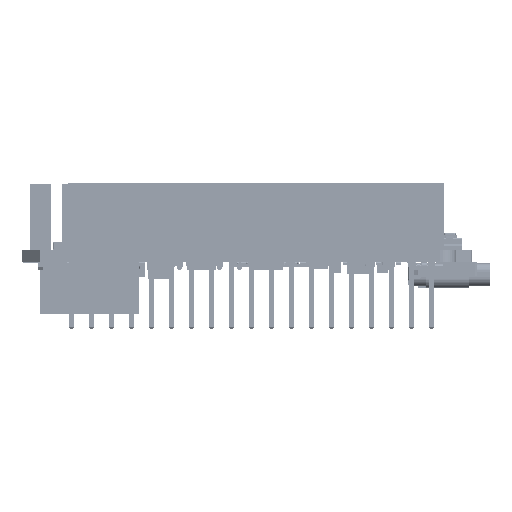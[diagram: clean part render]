
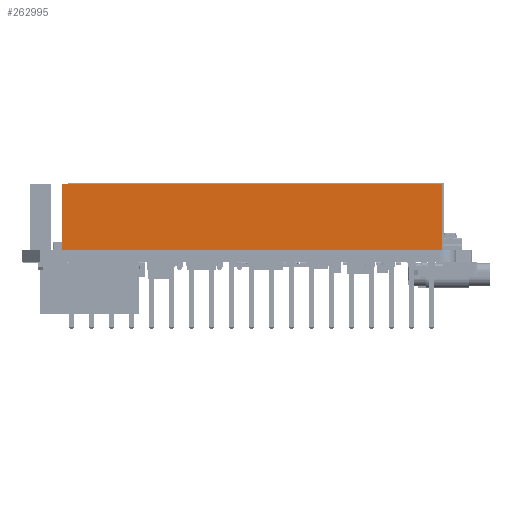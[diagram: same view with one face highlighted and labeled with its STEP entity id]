
A CAD part, left-side view. The second image highlights one B-rep face of the part: STEP entity #262995.
In plain terms, the highlighted planar face has unit normal (-1, 0, 0).
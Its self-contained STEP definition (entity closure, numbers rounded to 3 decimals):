
#262897 = EDGE_CURVE('',#262898,#262900,#262902,.T.);
#262898 = VERTEX_POINT('',#262899);
#262899 = CARTESIAN_POINT('',(-2.545,24.132,0.));
#262900 = VERTEX_POINT('',#262901);
#262901 = CARTESIAN_POINT('',(-2.545,24.132,8.38));
#262902 = LINE('',#262903,#262904);
#262903 = CARTESIAN_POINT('',(-2.545,24.132,0.));
#262904 = VECTOR('',#262905,1.);
#262905 = DIRECTION('',(0.,0.,1.));
#262970 = VERTEX_POINT('',#262971);
#262971 = CARTESIAN_POINT('',(-2.545,-24.132,8.38));
#262977 = EDGE_CURVE('',#262978,#262970,#262980,.T.);
#262978 = VERTEX_POINT('',#262979);
#262979 = CARTESIAN_POINT('',(-2.545,-24.132,0.));
#262980 = LINE('',#262981,#262982);
#262981 = CARTESIAN_POINT('',(-2.545,-24.132,0.));
#262982 = VECTOR('',#262983,1.);
#262983 = DIRECTION('',(0.,0.,1.));
#262995 = ADVANCED_FACE('',(#262996),#263012,.T.);
#262996 = FACE_BOUND('',#262997,.T.);
#262997 = EDGE_LOOP('',(#262998,#262999,#263005,#263006));
#262998 = ORIENTED_EDGE('',*,*,#262977,.T.);
#262999 = ORIENTED_EDGE('',*,*,#263000,.T.);
#263000 = EDGE_CURVE('',#262970,#262900,#263001,.T.);
#263001 = LINE('',#263002,#263003);
#263002 = CARTESIAN_POINT('',(-2.545,-24.132,8.38));
#263003 = VECTOR('',#263004,1.);
#263004 = DIRECTION('',(0.,1.,0.));
#263005 = ORIENTED_EDGE('',*,*,#262897,.F.);
#263006 = ORIENTED_EDGE('',*,*,#263007,.F.);
#263007 = EDGE_CURVE('',#262978,#262898,#263008,.T.);
#263008 = LINE('',#263009,#263010);
#263009 = CARTESIAN_POINT('',(-2.545,-24.132,0.));
#263010 = VECTOR('',#263011,1.);
#263011 = DIRECTION('',(0.,1.,0.));
#263012 = PLANE('',#263013);
#263013 = AXIS2_PLACEMENT_3D('',#263014,#263015,#263016);
#263014 = CARTESIAN_POINT('',(-2.545,-24.132,0.));
#263015 = DIRECTION('',(-1.,0.,0.));
#263016 = DIRECTION('',(0.,1.,0.));
